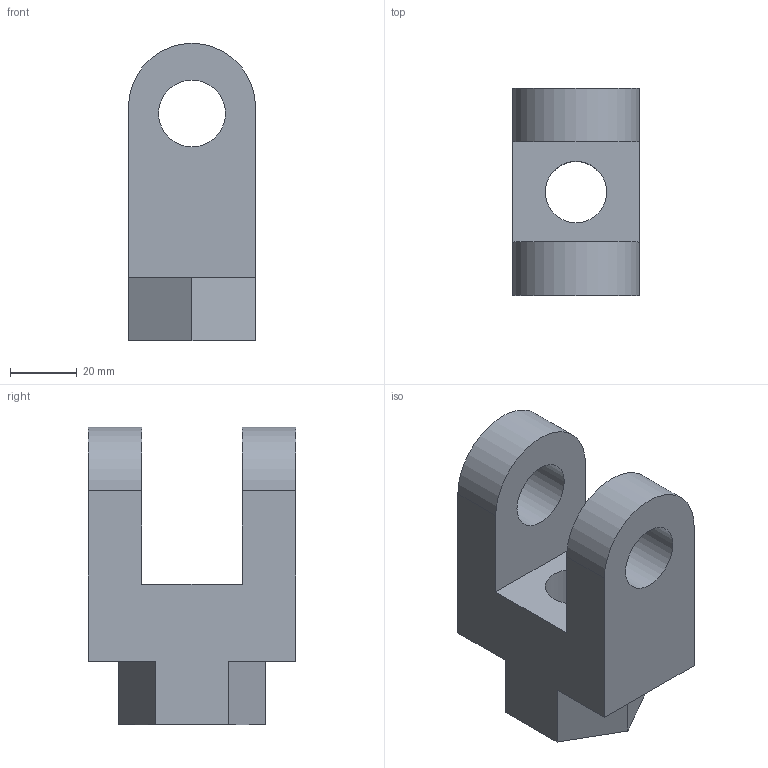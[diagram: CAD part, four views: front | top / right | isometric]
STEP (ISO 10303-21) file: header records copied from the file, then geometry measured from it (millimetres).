
FILE_DESCRIPTION(/* description */ ('Unknown'),/* implementation_level */ '2;1');
FILE_NAME(/* name */ 'WA80_WA100_Y',/* time_stamp */ '2026-07-17T17:02:12+08:00',/* author */ ('Unknown'),/* organization */ ('Unknown'),/* preprocessor_version */ 'ST-DEVELOPER v16.7',/* originating_system */ 'DEX',/* authorisation */ $);
FILE_SCHEMA (('CONFIG_CONTROL_DESIGN'));
Length unit declared in the file: millimetre
Products named in the file (1): WA80_WA100_Y
Bounding box: 38 x 62 x 89 mm (x, y, z)
Volume: 108950.1 mm3; surface area: 23471.6 mm2
Topology: 1 solids, 1 shells, 19 faces, 54 edges, 37 vertices
Faces by surface type: plane 14, cylinder 5
Full cylindrical faces by diameter (mm): 18.376 x1, 20 x2
Entity records: 749 total; most frequent: CARTESIAN_POINT 102, DIRECTION 98, ORIENTED_EDGE 96, EDGE_CURVE 48, LINE 38, VECTOR 38, VERTEX_POINT 34, AXIS2_PLACEMENT_3D 30
